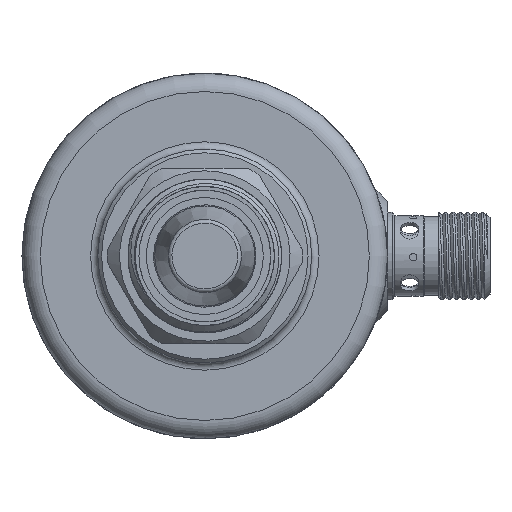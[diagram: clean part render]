
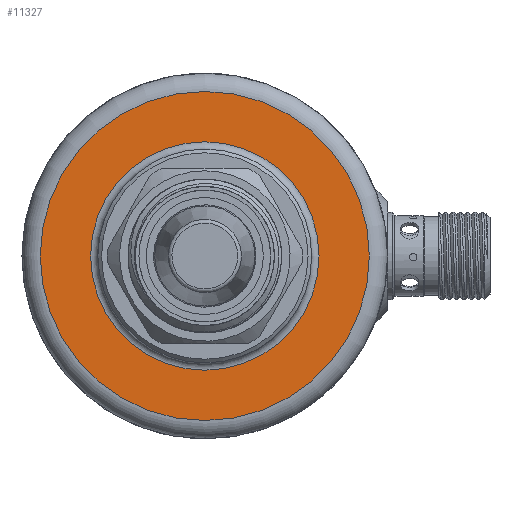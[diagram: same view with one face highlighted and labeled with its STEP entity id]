
A CAD part, front view. The second image highlights one B-rep face of the part: STEP entity #11327.
In plain terms, the highlighted planar face has unit normal (0, -1, 0) as drawn and (-1, 0, 0) by its records, which use the part's own axes.
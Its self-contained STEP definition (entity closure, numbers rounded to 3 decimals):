
#25 = CIRCLE ( 'NONE', #9452, 22.5 ) ;
#58 = DIRECTION ( 'NONE',  ( 0., 0., -1. ) ) ;
#123 = CARTESIAN_POINT ( 'NONE',  ( 41., 0., -0.275 ) ) ;
#216 = PLANE ( 'NONE',  #394 ) ;
#394 = AXIS2_PLACEMENT_3D ( 'NONE', #1396, #5702, #8792 ) ;
#750 = EDGE_CURVE ( 'NONE', #1795, #1795, #25, .T. ) ;
#882 = ORIENTED_EDGE ( 'NONE', *, *, #5854, .T. ) ;
#1112 = DIRECTION ( 'NONE',  ( 1., 0., 0. ) ) ;
#1358 = DIRECTION ( 'NONE',  ( 0., 0., -1. ) ) ;
#1396 = CARTESIAN_POINT ( 'NONE',  ( 41., 0., -0.275 ) ) ;
#1795 = VERTEX_POINT ( 'NONE', #9312 ) ;
#1951 = EDGE_LOOP ( 'NONE', ( #882 ) ) ;
#3317 = FACE_BOUND ( 'NONE', #1951, .T. ) ;
#4583 = FACE_OUTER_BOUND ( 'NONE', #13189, .T. ) ;
#5532 = AXIS2_PLACEMENT_3D ( 'NONE', #123, #1112, #58 ) ;
#5702 = DIRECTION ( 'NONE',  ( 1., 0., 0. ) ) ;
#5854 = EDGE_CURVE ( 'NONE', #10596, #10596, #7544, .T. ) ;
#7499 = CARTESIAN_POINT ( 'NONE',  ( 41., 0., -15.895 ) ) ;
#7544 = CIRCLE ( 'NONE', #5532, 15.62 ) ;
#8792 = DIRECTION ( 'NONE',  ( 0., 0., -1. ) ) ;
#9097 = DIRECTION ( 'NONE',  ( -1., 0., 0. ) ) ;
#9312 = CARTESIAN_POINT ( 'NONE',  ( 41., 0., -22.775 ) ) ;
#9452 = AXIS2_PLACEMENT_3D ( 'NONE', #11012, #9097, #1358 ) ;
#10596 = VERTEX_POINT ( 'NONE', #7499 ) ;
#11012 = CARTESIAN_POINT ( 'NONE',  ( 41., 0., -0.275 ) ) ;
#11327 = ADVANCED_FACE ( 'NONE', ( #3317, #4583 ), #216, .F. ) ;
#11546 = ORIENTED_EDGE ( 'NONE', *, *, #750, .T. ) ;
#13189 = EDGE_LOOP ( 'NONE', ( #11546 ) ) ;
